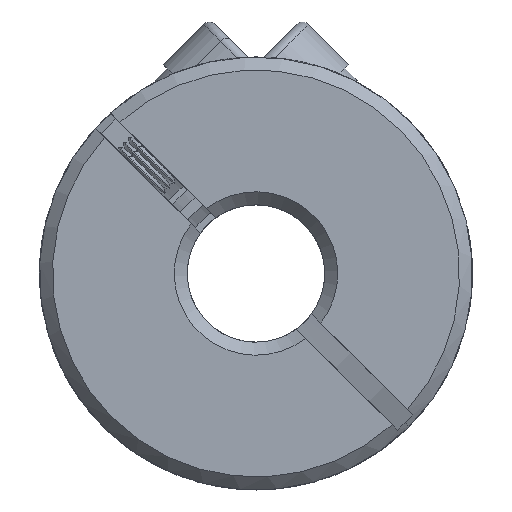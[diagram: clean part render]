
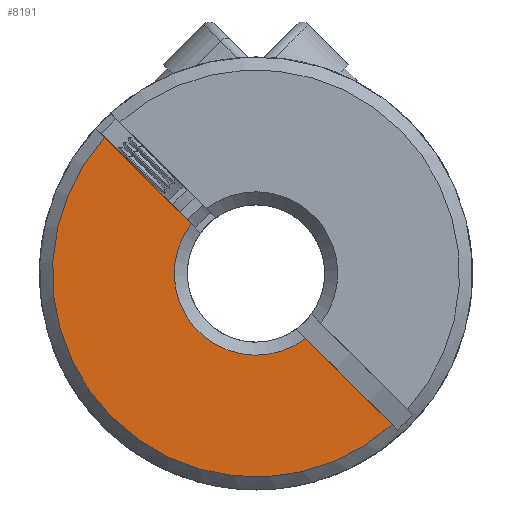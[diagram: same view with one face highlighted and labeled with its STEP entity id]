
A CAD part, front view. The second image highlights one B-rep face of the part: STEP entity #8191.
In plain terms, the highlighted planar face has unit normal (0, -1, 0).
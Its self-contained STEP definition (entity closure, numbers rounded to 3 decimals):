
#1013 = LINE ( 'NONE', #1044, #9314 ) ;
#1044 = CARTESIAN_POINT ( 'NONE',  ( 0.205, -11.2, -0.912 ) ) ;
#1371 = CARTESIAN_POINT ( 'NONE',  ( 2.292, -11.2, -2.999 ) ) ;
#1421 = CARTESIAN_POINT ( 'NONE',  ( -8.839, -11.2, 8.132 ) ) ;
#1811 = LINE ( 'NONE', #1421, #2734 ) ;
#2283 = CARTESIAN_POINT ( 'NONE',  ( 0., -11.2, 0. ) ) ;
#2383 = AXIS2_PLACEMENT_3D ( 'NONE', #2849, #7427, #10974 ) ;
#2734 = VECTOR ( 'NONE', #8545, 1000. ) ;
#2849 = CARTESIAN_POINT ( 'NONE',  ( 0., -11.2, 0. ) ) ;
#3143 = AXIS2_PLACEMENT_3D ( 'NONE', #2283, #12766, #5756 ) ;
#3727 = CARTESIAN_POINT ( 'NONE',  ( -2.999, -11.2, 2.292 ) ) ;
#5007 = EDGE_LOOP ( 'NONE', ( #8946, #12302, #11162, #8643 ) ) ;
#5310 = VERTEX_POINT ( 'NONE', #14459 ) ;
#5436 = CARTESIAN_POINT ( 'NONE',  ( 45.083, -11.2, 25.627 ) ) ;
#5756 = DIRECTION ( 'NONE',  ( -0.707, 0., 0.707 ) ) ;
#5927 = FACE_OUTER_BOUND ( 'NONE', #5007, .T. ) ;
#6254 = CIRCLE ( 'NONE', #2383, 3.775 ) ;
#6407 = VERTEX_POINT ( 'NONE', #13095 ) ;
#6790 = DIRECTION ( 'NONE',  ( -0.707, 0., 0.707 ) ) ;
#6921 = EDGE_CURVE ( 'NONE', #6407, #11004, #1811, .T. ) ;
#7427 = DIRECTION ( 'NONE',  ( 0., 1., 0. ) ) ;
#8191 = ADVANCED_FACE ( 'NONE', ( #5927 ), #8815, .T. ) ;
#8545 = DIRECTION ( 'NONE',  ( -0.707, 0., 0.707 ) ) ;
#8643 = ORIENTED_EDGE ( 'NONE', *, *, #14553, .T. ) ;
#8815 = PLANE ( 'NONE',  #9458 ) ;
#8946 = ORIENTED_EDGE ( 'NONE', *, *, #9319, .T. ) ;
#9314 = VECTOR ( 'NONE', #6790, 1000. ) ;
#9319 = EDGE_CURVE ( 'NONE', #12491, #5310, #1013, .T. ) ;
#9458 = AXIS2_PLACEMENT_3D ( 'NONE', #5436, #13652, #10079 ) ;
#10079 = DIRECTION ( 'NONE',  ( -0.707, 0., 0.707 ) ) ;
#10939 = CIRCLE ( 'NONE', #3143, 9.4 ) ;
#10974 = DIRECTION ( 'NONE',  ( -0.707, 0., 0.707 ) ) ;
#11004 = VERTEX_POINT ( 'NONE', #1371 ) ;
#11162 = ORIENTED_EDGE ( 'NONE', *, *, #6921, .T. ) ;
#12302 = ORIENTED_EDGE ( 'NONE', *, *, #14672, .T. ) ;
#12491 = VERTEX_POINT ( 'NONE', #3727 ) ;
#12766 = DIRECTION ( 'NONE',  ( 0., -1., 0. ) ) ;
#13095 = CARTESIAN_POINT ( 'NONE',  ( 6.284, -11.2, -6.991 ) ) ;
#13652 = DIRECTION ( 'NONE',  ( 0., -1., 0. ) ) ;
#14459 = CARTESIAN_POINT ( 'NONE',  ( -6.991, -11.2, 6.284 ) ) ;
#14553 = EDGE_CURVE ( 'NONE', #11004, #12491, #6254, .T. ) ;
#14672 = EDGE_CURVE ( 'NONE', #5310, #6407, #10939, .T. ) ;
